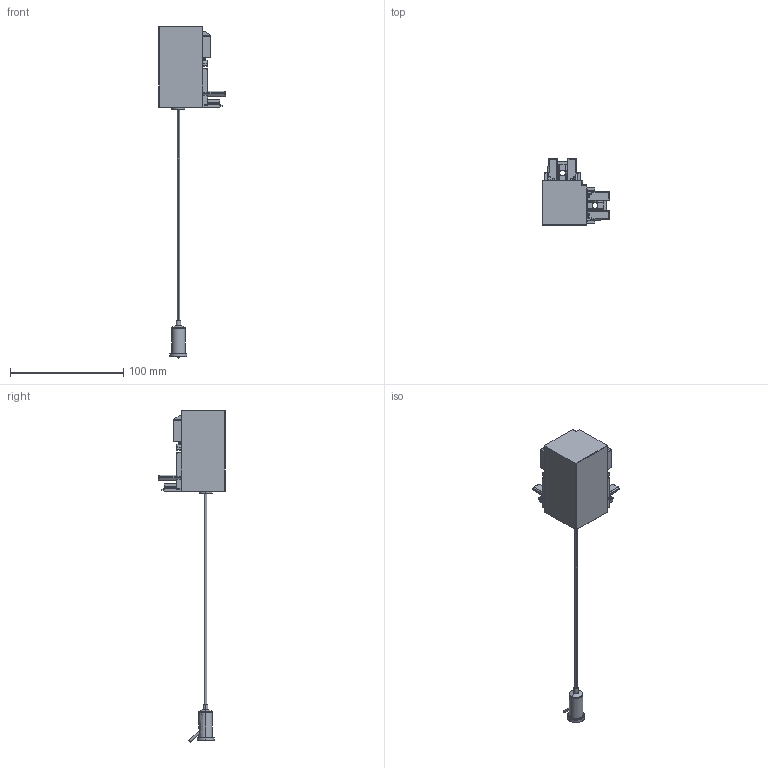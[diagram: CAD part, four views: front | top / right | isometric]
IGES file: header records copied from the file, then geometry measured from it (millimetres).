
Start section: SolidWorks IGES file using analytic representation for surfaces
Global section: file name: C:\Users\extension46\Desktop\3D-WEB\Invisible\Modular\L90D-steel-wire.IGS; native system: SolidWorks 2023; preprocessor: SolidWorks 2023; author: y.wang; date: 240627.085721; units: millimetre
Bounding box: 59.01 x 59.01 x 292.99 mm (x, y, z)
Surface area: 33098.1 mm2 (no closed solid volume)
Topology: 0 solids, 0 shells, 1276 faces, 10074 edges, 10004 vertices
Faces by surface type: revolution 690, bspline 586
